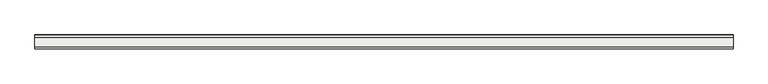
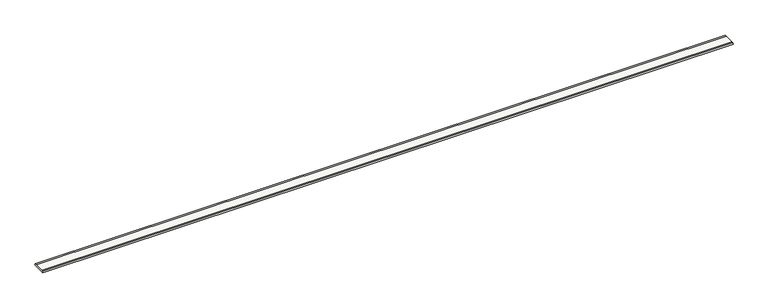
"""IFC4 building model written with IfcOpenShell, lengths in millimetres: slab geometry, ROSA GRES_245 FL_Colocación en plano : Rejilla 245 FL_Tresor_Java_Anti-Slip."""

from ifc_helpers import new_model, si_unit, point, frame, frame_2d, origin, place, context, project, spatial, polyline, circle_curve, trimmed, segment, composite_curve, outline, extrude, source, transform, mapped, element, save


def slab_8a1322a0(model_context):
    return source(origin(), model_context, "Body", "SweptSolid", [
        extrude(outline(composite_curve([segment(polyline([(238.1232639, -3.0209998), (244.0502169, -22.0), (0.9482737, -22.0), (6.8503894, -3.0704499)]), True, "CONTINUOUS"), segment(trimmed(circle_curve(frame_2d((86.2847076, -720.2412375)), 721.556477), [point((6.8503894, -3.0704499))], [point((42.7380732, 0.0))], False, "CARTESIAN"), True, "CONTINUOUS"), segment(polyline([(42.7380732, 0.0), (202.6833158, 0.0)]), True, "CONTINUOUS"), segment(trimmed(circle_curve(frame_2d((159.1366814, -720.2412375)), 721.556477), [point((202.6833158, 0.0))], [point((238.1232639, -3.0209998))], False, "CARTESIAN"), True, "CONTINUOUS")], self_intersect=False)), frame((0.0, 0.0, 0.0), z_axis=(1.0, 0.0, 0.0), x_axis=(0.0, 1.0, 0.0)), (0.0, 0.0, 1.0), 12080.654242),
    ])


if __name__ == "__main__":
    model = new_model("IFC4")
    model_context = context("Model", 3, world=origin())
    ifc_project = project(units=[si_unit("LENGTHUNIT", "METRE", prefix="MILLI")], contexts=[model_context])
    site = spatial("IfcSite", under=ifc_project)
    building = spatial("IfcBuilding", under=site)
    placement = place(None, origin())
    slab_shape = slab_8a1322a0(model_context)
    element("IfcSlab", 1, ObjectType="ROSA GRES_245 FL_Colocación en plano : Rejilla 245 FL_Tresor_Java_Anti-Slip", at=placement, inside=building, context=model_context, shape_type="MappedRepresentation", body=[
        mapped(slab_shape, transform((0.0, 0.0, 0.0), x_axis=(1.0, 0.0, 0.0), y_axis=(0.0, 1.0, 0.0), z_axis=(0.0, 0.0, 1.0))),
    ])
    save(model, "model.ifc")
